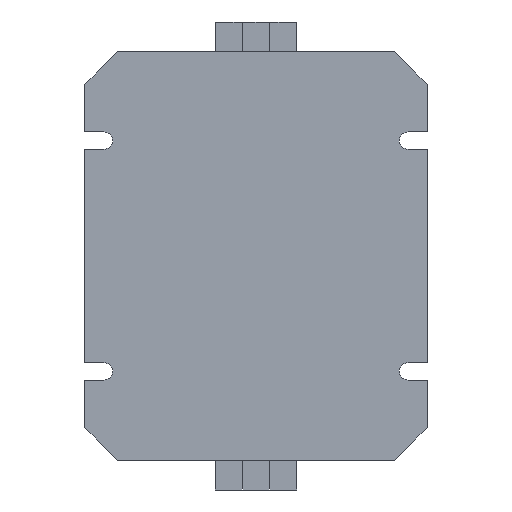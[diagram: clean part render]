
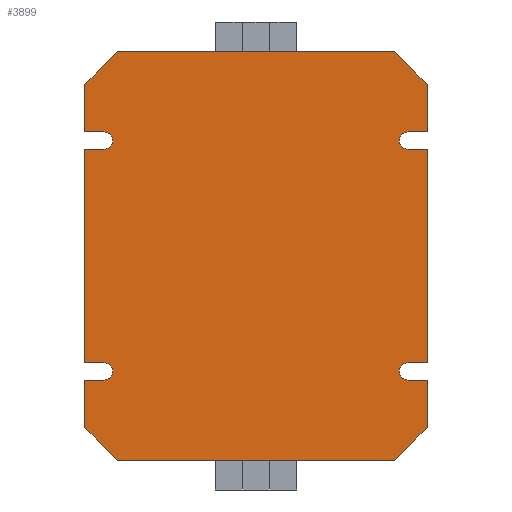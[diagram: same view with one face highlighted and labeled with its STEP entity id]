
A CAD part, front view. The second image highlights one B-rep face of the part: STEP entity #3899.
In plain terms, the highlighted planar face has unit normal (0, -1, 0).
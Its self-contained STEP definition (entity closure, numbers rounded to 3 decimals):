
#2683=CARTESIAN_POINT('',(-51.0,-27.625,75.25));
#2684=VERTEX_POINT('',#2683);
#2691=CARTESIAN_POINT('',(51.,-27.625,75.25));
#2692=VERTEX_POINT('',#2691);
#2693=CARTESIAN_POINT('',(-51.0,-27.625,75.25));
#2694=DIRECTION('',(1.0,0.0,0.0));
#2695=VECTOR('',#2694,102.0);
#2696=LINE('',#2693,#2695);
#2697=EDGE_CURVE('',#2684,#2692,#2696,.T.);
#2848=CARTESIAN_POINT('',(51.,-27.625,-75.25));
#2849=VERTEX_POINT('',#2848);
#2856=CARTESIAN_POINT('',(-51.0,-27.625,-75.25));
#2857=VERTEX_POINT('',#2856);
#2858=CARTESIAN_POINT('',(51.0,-27.625,-75.25));
#2859=DIRECTION('',(-1.0,0.0,0.0));
#2860=VECTOR('',#2859,102.0);
#2861=LINE('',#2858,#2860);
#2862=EDGE_CURVE('',#2849,#2857,#2861,.T.);
#3105=CARTESIAN_POINT('',(56.0,-27.625,45.7));
#3106=VERTEX_POINT('',#3105);
#3113=CARTESIAN_POINT('',(56.0,-27.625,39.3));
#3114=VERTEX_POINT('',#3113);
#3115=CARTESIAN_POINT('',(56.0,-27.625,42.5));
#3116=DIRECTION('',(0.0,1.0,0.0));
#3117=DIRECTION('',(0.0,0.0,1.0));
#3118=AXIS2_PLACEMENT_3D('',#3115,#3116,#3117);
#3119=CIRCLE('',#3118,3.2);
#3120=EDGE_CURVE('',#3114,#3106,#3119,.T.);
#3145=CARTESIAN_POINT('',(63.0,-27.625,39.3));
#3146=VERTEX_POINT('',#3145);
#3147=CARTESIAN_POINT('',(63.0,-27.625,39.3));
#3148=DIRECTION('',(-1.0,0.0,0.0));
#3149=VECTOR('',#3148,7.0);
#3150=LINE('',#3147,#3149);
#3151=EDGE_CURVE('',#3146,#3114,#3150,.T.);
#3175=CARTESIAN_POINT('',(63.0,-27.625,45.7));
#3176=VERTEX_POINT('',#3175);
#3183=CARTESIAN_POINT('',(56.0,-27.625,45.7));
#3184=DIRECTION('',(1.0,0.0,0.0));
#3185=VECTOR('',#3184,7.0);
#3186=LINE('',#3183,#3185);
#3187=EDGE_CURVE('',#3106,#3176,#3186,.T.);
#3281=CARTESIAN_POINT('',(63.0,-27.625,-39.3));
#3282=VERTEX_POINT('',#3281);
#3283=CARTESIAN_POINT('',(63.,-27.625,39.3));
#3284=DIRECTION('',(0.0,0.0,-1.0));
#3285=VECTOR('',#3284,78.6);
#3286=LINE('',#3283,#3285);
#3287=EDGE_CURVE('',#3146,#3282,#3286,.T.);
#3326=CARTESIAN_POINT('',(56.0,-27.625,-39.3));
#3327=VERTEX_POINT('',#3326);
#3334=CARTESIAN_POINT('',(56.0,-27.625,-45.7));
#3335=VERTEX_POINT('',#3334);
#3336=CARTESIAN_POINT('',(56.0,-27.625,-42.5));
#3337=DIRECTION('',(0.0,1.0,0.0));
#3338=DIRECTION('',(0.0,0.0,-1.0));
#3339=AXIS2_PLACEMENT_3D('',#3336,#3337,#3338);
#3340=CIRCLE('',#3339,3.2);
#3341=EDGE_CURVE('',#3335,#3327,#3340,.T.);
#3359=CARTESIAN_POINT('',(56.0,-27.625,-39.3));
#3360=DIRECTION('',(1.0,0.0,0.0));
#3361=VECTOR('',#3360,7.0);
#3362=LINE('',#3359,#3361);
#3363=EDGE_CURVE('',#3327,#3282,#3362,.T.);
#3376=CARTESIAN_POINT('',(63.0,-27.625,-45.7));
#3377=VERTEX_POINT('',#3376);
#3378=CARTESIAN_POINT('',(63.0,-27.625,-45.7));
#3379=DIRECTION('',(-1.0,0.0,0.0));
#3380=VECTOR('',#3379,7.0);
#3381=LINE('',#3378,#3380);
#3382=EDGE_CURVE('',#3377,#3335,#3381,.T.);
#3399=CARTESIAN_POINT('',(63.,-27.625,-63.25));
#3400=VERTEX_POINT('',#3399);
#3401=CARTESIAN_POINT('',(63.,-27.625,-45.7));
#3402=DIRECTION('',(0.0,0.0,-1.0));
#3403=VECTOR('',#3402,17.55);
#3404=LINE('',#3401,#3403);
#3405=EDGE_CURVE('',#3377,#3400,#3404,.T.);
#3454=CARTESIAN_POINT('',(-56.0,-27.625,39.3));
#3455=VERTEX_POINT('',#3454);
#3462=CARTESIAN_POINT('',(-56.0,-27.625,45.7));
#3463=VERTEX_POINT('',#3462);
#3464=CARTESIAN_POINT('',(-56.0,-27.625,42.5));
#3465=DIRECTION('',(0.0,1.0,0.0));
#3466=DIRECTION('',(0.0,0.0,1.0));
#3467=AXIS2_PLACEMENT_3D('',#3464,#3465,#3466);
#3468=CIRCLE('',#3467,3.2);
#3469=EDGE_CURVE('',#3463,#3455,#3468,.T.);
#3493=CARTESIAN_POINT('',(-63.0,-27.625,39.3));
#3494=VERTEX_POINT('',#3493);
#3501=CARTESIAN_POINT('',(-56.0,-27.625,39.3));
#3502=DIRECTION('',(-1.0,0.0,0.0));
#3503=VECTOR('',#3502,7.0);
#3504=LINE('',#3501,#3503);
#3505=EDGE_CURVE('',#3455,#3494,#3504,.T.);
#3525=CARTESIAN_POINT('',(-63.0,-27.625,45.7));
#3526=VERTEX_POINT('',#3525);
#3527=CARTESIAN_POINT('',(-63.0,-27.625,45.7));
#3528=DIRECTION('',(1.0,0.0,0.0));
#3529=VECTOR('',#3528,7.0);
#3530=LINE('',#3527,#3529);
#3531=EDGE_CURVE('',#3526,#3463,#3530,.T.);
#3625=CARTESIAN_POINT('',(-63.0,-27.625,63.25));
#3626=VERTEX_POINT('',#3625);
#3627=CARTESIAN_POINT('',(-63.0,-27.625,63.25));
#3628=DIRECTION('',(0.0,0.0,-1.0));
#3629=VECTOR('',#3628,17.55);
#3630=LINE('',#3627,#3629);
#3631=EDGE_CURVE('',#3626,#3526,#3630,.T.);
#3649=CARTESIAN_POINT('',(-56.0,-27.625,-45.7));
#3650=VERTEX_POINT('',#3649);
#3657=CARTESIAN_POINT('',(-56.0,-27.625,-39.3));
#3658=VERTEX_POINT('',#3657);
#3659=CARTESIAN_POINT('',(-56.0,-27.625,-42.5));
#3660=DIRECTION('',(0.0,1.0,0.0));
#3661=DIRECTION('',(0.0,0.0,-1.0));
#3662=AXIS2_PLACEMENT_3D('',#3659,#3660,#3661);
#3663=CIRCLE('',#3662,3.2);
#3664=EDGE_CURVE('',#3658,#3650,#3663,.T.);
#3682=CARTESIAN_POINT('',(-63.0,-27.625,-39.3));
#3683=VERTEX_POINT('',#3682);
#3684=CARTESIAN_POINT('',(-63.0,-27.625,-39.3));
#3685=DIRECTION('',(1.0,0.0,0.0));
#3686=VECTOR('',#3685,7.0);
#3687=LINE('',#3684,#3686);
#3688=EDGE_CURVE('',#3683,#3658,#3687,.T.);
#3705=CARTESIAN_POINT('',(-63.0,-27.625,-45.7));
#3706=VERTEX_POINT('',#3705);
#3713=CARTESIAN_POINT('',(-56.0,-27.625,-45.7));
#3714=DIRECTION('',(-1.0,0.0,0.0));
#3715=VECTOR('',#3714,7.0);
#3716=LINE('',#3713,#3715);
#3717=EDGE_CURVE('',#3650,#3706,#3716,.T.);
#3731=CARTESIAN_POINT('',(-63.0,-27.625,39.3));
#3732=DIRECTION('',(0.0,0.0,-1.0));
#3733=VECTOR('',#3732,78.6);
#3734=LINE('',#3731,#3733);
#3735=EDGE_CURVE('',#3494,#3683,#3734,.T.);
#3745=CARTESIAN_POINT('',(63.,-27.625,-63.25));
#3746=DIRECTION('',(-0.707,0.,-0.707));
#3747=VECTOR('',#3746,16.971);
#3748=LINE('',#3745,#3747);
#3749=EDGE_CURVE('',#3400,#2849,#3748,.T.);
#3764=CARTESIAN_POINT('',(63.,-27.625,63.25));
#3765=VERTEX_POINT('',#3764);
#3772=CARTESIAN_POINT('',(63.,-27.625,63.25));
#3773=DIRECTION('',(0.0,0.0,-1.0));
#3774=VECTOR('',#3773,17.55);
#3775=LINE('',#3772,#3774);
#3776=EDGE_CURVE('',#3765,#3176,#3775,.T.);
#3788=CARTESIAN_POINT('',(51.,-27.625,75.25));
#3789=DIRECTION('',(0.707,0.,-0.707));
#3790=VECTOR('',#3789,16.971);
#3791=LINE('',#3788,#3790);
#3792=EDGE_CURVE('',#2692,#3765,#3791,.T.);
#3803=CARTESIAN_POINT('',(-63.,-27.625,63.25));
#3804=DIRECTION('',(0.707,0.,0.707));
#3805=VECTOR('',#3804,16.971);
#3806=LINE('',#3803,#3805);
#3807=EDGE_CURVE('',#3626,#2684,#3806,.T.);
#3822=CARTESIAN_POINT('',(-63.0,-27.625,-63.25));
#3823=VERTEX_POINT('',#3822);
#3830=CARTESIAN_POINT('',(-63.0,-27.625,-45.7));
#3831=DIRECTION('',(0.0,0.0,-1.0));
#3832=VECTOR('',#3831,17.55);
#3833=LINE('',#3830,#3832);
#3834=EDGE_CURVE('',#3706,#3823,#3833,.T.);
#3846=CARTESIAN_POINT('',(-51.,-27.625,-75.25));
#3847=DIRECTION('',(-0.707,0.,0.707));
#3848=VECTOR('',#3847,16.971);
#3849=LINE('',#3846,#3848);
#3850=EDGE_CURVE('',#2857,#3823,#3849,.T.);
#3868=CARTESIAN_POINT('',(50.25,-27.625,0.0));
#3869=DIRECTION('',(0.0,-1.0,0.0));
#3870=DIRECTION('',(0.0,0.0,-1.0));
#3871=AXIS2_PLACEMENT_3D('',#3868,#3869,#3870);
#3872=PLANE('',#3871);
#3873=ORIENTED_EDGE('',*,*,#3187,.T.);
#3874=ORIENTED_EDGE('',*,*,#3776,.F.);
#3875=ORIENTED_EDGE('',*,*,#3792,.F.);
#3876=ORIENTED_EDGE('',*,*,#2697,.F.);
#3877=ORIENTED_EDGE('',*,*,#3807,.F.);
#3878=ORIENTED_EDGE('',*,*,#3631,.T.);
#3879=ORIENTED_EDGE('',*,*,#3531,.T.);
#3880=ORIENTED_EDGE('',*,*,#3469,.T.);
#3881=ORIENTED_EDGE('',*,*,#3505,.T.);
#3882=ORIENTED_EDGE('',*,*,#3735,.T.);
#3883=ORIENTED_EDGE('',*,*,#3688,.T.);
#3884=ORIENTED_EDGE('',*,*,#3664,.T.);
#3885=ORIENTED_EDGE('',*,*,#3717,.T.);
#3886=ORIENTED_EDGE('',*,*,#3834,.T.);
#3887=ORIENTED_EDGE('',*,*,#3850,.F.);
#3888=ORIENTED_EDGE('',*,*,#2862,.F.);
#3889=ORIENTED_EDGE('',*,*,#3749,.F.);
#3890=ORIENTED_EDGE('',*,*,#3405,.F.);
#3891=ORIENTED_EDGE('',*,*,#3382,.T.);
#3892=ORIENTED_EDGE('',*,*,#3341,.T.);
#3893=ORIENTED_EDGE('',*,*,#3363,.T.);
#3894=ORIENTED_EDGE('',*,*,#3287,.F.);
#3895=ORIENTED_EDGE('',*,*,#3151,.T.);
#3896=ORIENTED_EDGE('',*,*,#3120,.T.);
#3897=EDGE_LOOP('',(#3873,#3874,#3875,#3876,#3877,#3878,#3879,#3880,#3881,#3882,#3883,#3884,#3885,#3886,#3887,#3888,#3889,#3890,#3891,#3892,#3893,#3894,#3895,#3896));
#3898=FACE_OUTER_BOUND('',#3897,.T.);
#3899=ADVANCED_FACE('',(#3898),#3872,.T.);
